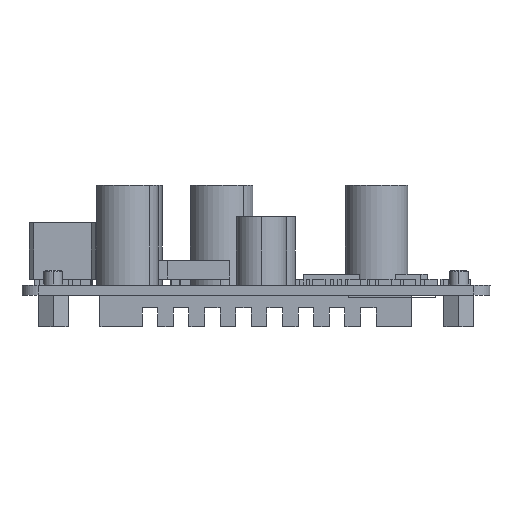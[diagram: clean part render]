
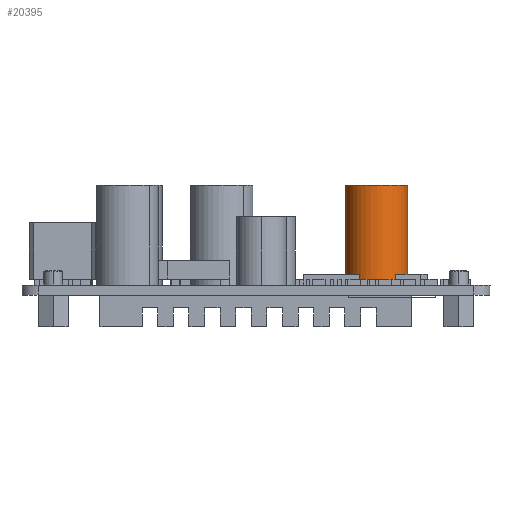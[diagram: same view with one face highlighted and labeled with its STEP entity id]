
A CAD part, left-side view. The second image highlights one B-rep face of the part: STEP entity #20395.
In plain terms, the highlighted cylindrical face has radius 5 mm (diameter 10 mm), a partial arc.
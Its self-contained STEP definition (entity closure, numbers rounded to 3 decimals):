
#1784 = FACE_OUTER_BOUND ( 'NONE', #16274, .T. ) ;
#2957 = CIRCLE ( 'NONE', #21277, 5. ) ;
#5558 = EDGE_CURVE ( 'NONE', #28367, #15815, #21662, .T. ) ;
#6834 = CIRCLE ( 'NONE', #12288, 5. ) ;
#7362 = VERTEX_POINT ( 'NONE', #28749 ) ;
#9584 = CARTESIAN_POINT ( 'NONE',  ( -17.069, -6.002, 127.006 ) ) ;
#9863 = CARTESIAN_POINT ( 'NONE',  ( -17.069, -16.002, 127.006 ) ) ;
#10661 = CARTESIAN_POINT ( 'NONE',  ( -17.069, -6.002, 111.006 ) ) ;
#10679 = VERTEX_POINT ( 'NONE', #9584 ) ;
#12288 = AXIS2_PLACEMENT_3D ( 'NONE', #31448, #26285, #15898 ) ;
#12684 = CARTESIAN_POINT ( 'NONE',  ( -17.069, -16.002, 111.006 ) ) ;
#13060 = DIRECTION ( 'NONE',  ( 0., 0., -1. ) ) ;
#13560 = CARTESIAN_POINT ( 'NONE',  ( -17.069, -16.002, 111.006 ) ) ;
#14217 = DIRECTION ( 'NONE',  ( 0., 0., -1. ) ) ;
#14298 = EDGE_CURVE ( 'NONE', #10679, #7362, #18538, .T. ) ;
#15450 = CARTESIAN_POINT ( 'NONE',  ( -17.069, -11.002, 111.006 ) ) ;
#15815 = VERTEX_POINT ( 'NONE', #12684 ) ;
#15898 = DIRECTION ( 'NONE',  ( 0., 1., 0. ) ) ;
#16274 = EDGE_LOOP ( 'NONE', ( #26125, #27667, #26323, #25836 ) ) ;
#18538 = LINE ( 'NONE', #10661, #19768 ) ;
#19768 = VECTOR ( 'NONE', #13060, 1000. ) ;
#20395 = ADVANCED_FACE ( 'NONE', ( #1784 ), #28164, .T. ) ;
#21277 = AXIS2_PLACEMENT_3D ( 'NONE', #15450, #26071, #33921 ) ;
#21366 = EDGE_CURVE ( 'NONE', #7362, #15815, #2957, .T. ) ;
#21662 = LINE ( 'NONE', #13560, #29466 ) ;
#25134 = EDGE_CURVE ( 'NONE', #10679, #28367, #6834, .T. ) ;
#25836 = ORIENTED_EDGE ( 'NONE', *, *, #5558, .F. ) ;
#26071 = DIRECTION ( 'NONE',  ( 0., 0., 1. ) ) ;
#26125 = ORIENTED_EDGE ( 'NONE', *, *, #25134, .F. ) ;
#26285 = DIRECTION ( 'NONE',  ( 0., 0., 1. ) ) ;
#26323 = ORIENTED_EDGE ( 'NONE', *, *, #21366, .T. ) ;
#26944 = AXIS2_PLACEMENT_3D ( 'NONE', #32769, #14217, #30082 ) ;
#27667 = ORIENTED_EDGE ( 'NONE', *, *, #14298, .T. ) ;
#28164 = CYLINDRICAL_SURFACE ( 'NONE', #26944, 5. ) ;
#28367 = VERTEX_POINT ( 'NONE', #9863 ) ;
#28749 = CARTESIAN_POINT ( 'NONE',  ( -17.069, -6.002, 111.006 ) ) ;
#29466 = VECTOR ( 'NONE', #31870, 1000. ) ;
#30082 = DIRECTION ( 'NONE',  ( 0., -1., 0. ) ) ;
#31448 = CARTESIAN_POINT ( 'NONE',  ( -17.069, -11.002, 127.006 ) ) ;
#31870 = DIRECTION ( 'NONE',  ( 0., 0., -1. ) ) ;
#32769 = CARTESIAN_POINT ( 'NONE',  ( -17.069, -11.002, 111.006 ) ) ;
#33921 = DIRECTION ( 'NONE',  ( 0., -1., 0. ) ) ;
